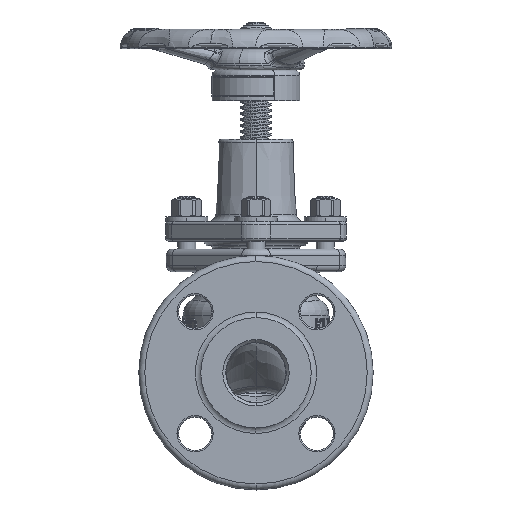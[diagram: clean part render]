
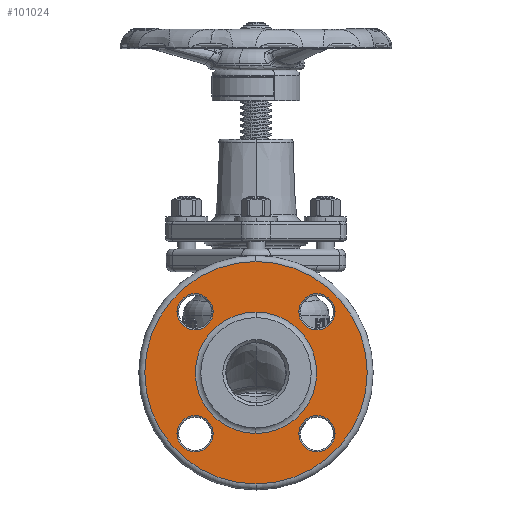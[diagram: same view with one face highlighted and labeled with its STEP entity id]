
A CAD part, left-side view. The second image highlights one B-rep face of the part: STEP entity #101024.
In plain terms, the highlighted planar face has unit normal (-1, 0, 0).
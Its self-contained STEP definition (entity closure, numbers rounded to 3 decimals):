
#18422=CARTESIAN_POINT('',(-112.9,0.,0.));
#18423=DIRECTION('',(-1.,0.,0.));
#18424=DIRECTION('',(0.,0.,1.));
#18425=AXIS2_PLACEMENT_3D('',#18422,#18423,#18424);
#18437=CARTESIAN_POINT('',(-112.9,0.,0.));
#18438=DIRECTION('',(1.,0.,0.));
#18439=DIRECTION('',(0.,0.,1.));
#18440=AXIS2_PLACEMENT_3D('',#18437,#18438,#18439);
#18447=CARTESIAN_POINT('',(-112.9,0.,0.));
#18448=DIRECTION('',(-1.,0.,0.));
#18449=DIRECTION('',(0.,0.,1.));
#18450=AXIS2_PLACEMENT_3D('',#18447,#18448,#18449);
#18452=CARTESIAN_POINT('',(-112.9,0.,0.));
#18453=DIRECTION('',(-1.,0.,0.));
#18454=DIRECTION('',(0.,0.,-1.));
#18455=AXIS2_PLACEMENT_3D('',#18452,#18453,#18454);
#18457=CARTESIAN_POINT('',(-112.9,-40.411,40.411));
#18458=DIRECTION('',(1.,0.,0.));
#18459=DIRECTION('',(0.,1.,0.));
#18460=AXIS2_PLACEMENT_3D('',#18457,#18458,#18459);
#18462=CARTESIAN_POINT('',(-112.9,-40.411,40.411));
#18463=DIRECTION('',(1.,0.,0.));
#18464=DIRECTION('',(0.,-1.,0.));
#18465=AXIS2_PLACEMENT_3D('',#18462,#18463,#18464);
#18467=CARTESIAN_POINT('',(-112.9,-40.411,-40.411));
#18468=DIRECTION('',(1.,0.,0.));
#18469=DIRECTION('',(0.,1.,0.));
#18470=AXIS2_PLACEMENT_3D('',#18467,#18468,#18469);
#18472=CARTESIAN_POINT('',(-112.9,-40.411,-40.411));
#18473=DIRECTION('',(1.,0.,0.));
#18474=DIRECTION('',(0.,-1.,0.));
#18475=AXIS2_PLACEMENT_3D('',#18472,#18473,#18474);
#18477=CARTESIAN_POINT('',(-112.9,40.411,-40.411));
#18478=DIRECTION('',(1.,0.,0.));
#18479=DIRECTION('',(0.,1.,0.));
#18480=AXIS2_PLACEMENT_3D('',#18477,#18478,#18479);
#18482=CARTESIAN_POINT('',(-112.9,40.411,-40.411));
#18483=DIRECTION('',(1.,0.,0.));
#18484=DIRECTION('',(0.,-1.,0.));
#18485=AXIS2_PLACEMENT_3D('',#18482,#18483,#18484);
#18487=CARTESIAN_POINT('',(-112.9,40.411,40.411));
#18488=DIRECTION('',(1.,0.,0.));
#18489=DIRECTION('',(0.,1.,0.));
#18490=AXIS2_PLACEMENT_3D('',#18487,#18488,#18489);
#18492=CARTESIAN_POINT('',(-112.9,40.411,40.411));
#18493=DIRECTION('',(1.,0.,0.));
#18494=DIRECTION('',(0.,-1.,0.));
#18495=AXIS2_PLACEMENT_3D('',#18492,#18493,#18494);
#42418=CARTESIAN_POINT('',(-112.9,0.,40.266));
#42419=CARTESIAN_POINT('',(-112.9,0.,-40.266));
#42420=VERTEX_POINT('',#42418);
#42421=VERTEX_POINT('',#42419);
#42531=CARTESIAN_POINT('',(-112.9,0.,73.75));
#42532=CARTESIAN_POINT('',(-112.9,0.,-73.75));
#42533=VERTEX_POINT('',#42531);
#42534=VERTEX_POINT('',#42532);
#42563=CARTESIAN_POINT('',(-112.9,-28.411,40.411));
#42564=CARTESIAN_POINT('',(-112.9,-52.411,40.411));
#42565=VERTEX_POINT('',#42563);
#42566=VERTEX_POINT('',#42564);
#42595=CARTESIAN_POINT('',(-112.9,-28.411,-40.411));
#42596=CARTESIAN_POINT('',(-112.9,-52.411,-40.411));
#42597=VERTEX_POINT('',#42595);
#42598=VERTEX_POINT('',#42596);
#42627=CARTESIAN_POINT('',(-112.9,52.411,-40.411));
#42628=CARTESIAN_POINT('',(-112.9,28.411,-40.411));
#42629=VERTEX_POINT('',#42627);
#42630=VERTEX_POINT('',#42628);
#42659=CARTESIAN_POINT('',(-112.9,52.411,40.411));
#42660=CARTESIAN_POINT('',(-112.9,28.411,40.411));
#42661=VERTEX_POINT('',#42659);
#42662=VERTEX_POINT('',#42660);
#100985=CARTESIAN_POINT('',(-112.9,0.,0.));
#100986=DIRECTION('',(-1.,0.,0.));
#100987=DIRECTION('',(0.,0.,1.));
#100988=AXIS2_PLACEMENT_3D('',#100985,#100986,#100987);
#100989=PLANE('',#100988);
#100991=ORIENTED_EDGE('',*,*,#100990,.F.);
#100993=ORIENTED_EDGE('',*,*,#100992,.F.);
#100994=EDGE_LOOP('',(#100991,#100993));
#100995=FACE_OUTER_BOUND('',#100994,.F.);
#100996=ORIENTED_EDGE('',*,*,#100965,.T.);
#100997=ORIENTED_EDGE('',*,*,#100979,.F.);
#100998=EDGE_LOOP('',(#100996,#100997));
#100999=FACE_BOUND('',#100998,.F.);
#101001=ORIENTED_EDGE('',*,*,#101000,.F.);
#101003=ORIENTED_EDGE('',*,*,#101002,.F.);
#101004=EDGE_LOOP('',(#101001,#101003));
#101005=FACE_BOUND('',#101004,.F.);
#101007=ORIENTED_EDGE('',*,*,#101006,.F.);
#101009=ORIENTED_EDGE('',*,*,#101008,.F.);
#101010=EDGE_LOOP('',(#101007,#101009));
#101011=FACE_BOUND('',#101010,.F.);
#101013=ORIENTED_EDGE('',*,*,#101012,.F.);
#101015=ORIENTED_EDGE('',*,*,#101014,.F.);
#101016=EDGE_LOOP('',(#101013,#101015));
#101017=FACE_BOUND('',#101016,.F.);
#101019=ORIENTED_EDGE('',*,*,#101018,.F.);
#101021=ORIENTED_EDGE('',*,*,#101020,.F.);
#101022=EDGE_LOOP('',(#101019,#101021));
#101023=FACE_BOUND('',#101022,.F.);
#101024=ADVANCED_FACE('',(#100995,#100999,#101005,#101011,#101017,#101023),
#100989,.T.);
#18426=CIRCLE('',#18425,40.266);
#18441=CIRCLE('',#18440,40.266);
#18451=CIRCLE('',#18450,73.75);
#18456=CIRCLE('',#18455,73.75);
#18461=CIRCLE('',#18460,12.);
#18466=CIRCLE('',#18465,12.);
#18471=CIRCLE('',#18470,12.);
#18476=CIRCLE('',#18475,12.);
#18481=CIRCLE('',#18480,12.);
#18486=CIRCLE('',#18485,12.);
#18491=CIRCLE('',#18490,12.);
#18496=CIRCLE('',#18495,12.);
#100965=EDGE_CURVE('',#42420,#42421,#18426,.T.);
#100979=EDGE_CURVE('',#42420,#42421,#18441,.T.);
#100990=EDGE_CURVE('',#42533,#42534,#18451,.T.);
#100992=EDGE_CURVE('',#42534,#42533,#18456,.T.);
#101000=EDGE_CURVE('',#42565,#42566,#18461,.T.);
#101002=EDGE_CURVE('',#42566,#42565,#18466,.T.);
#101006=EDGE_CURVE('',#42597,#42598,#18471,.T.);
#101008=EDGE_CURVE('',#42598,#42597,#18476,.T.);
#101012=EDGE_CURVE('',#42629,#42630,#18481,.T.);
#101014=EDGE_CURVE('',#42630,#42629,#18486,.T.);
#101018=EDGE_CURVE('',#42661,#42662,#18491,.T.);
#101020=EDGE_CURVE('',#42662,#42661,#18496,.T.);
